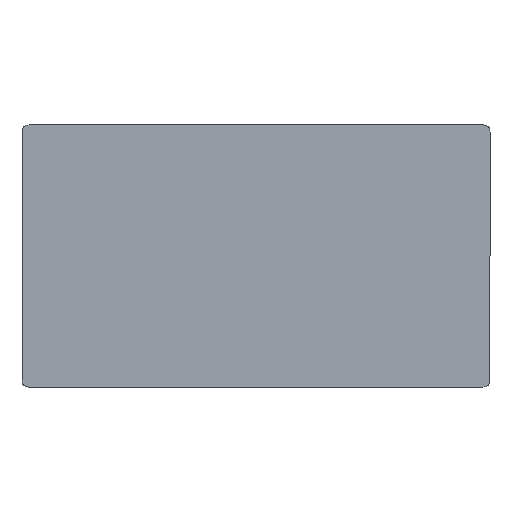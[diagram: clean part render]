
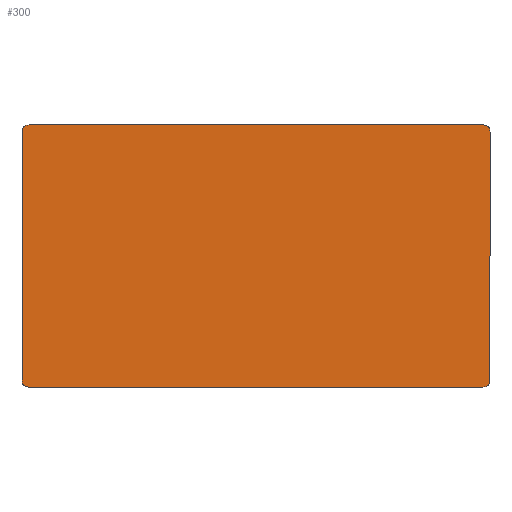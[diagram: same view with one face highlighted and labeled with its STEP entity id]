
A CAD part, front view. The second image highlights one B-rep face of the part: STEP entity #300.
In plain terms, the highlighted planar face has unit normal (0, -1, 0).
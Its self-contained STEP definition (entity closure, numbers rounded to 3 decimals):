
#7 = CARTESIAN_POINT ( 'NONE',  ( 10.985, 0., -9.1 ) ) ;
#69 = EDGE_CURVE ( 'NONE', #2564, #2676, #1303, .T. ) ;
#85 = LINE ( 'NONE', #128, #1072 ) ;
#105 = CARTESIAN_POINT ( 'NONE',  ( 11.48, 0., -8.602 ) ) ;
#128 = CARTESIAN_POINT ( 'NONE',  ( -7.115, 0., 9.1 ) ) ;
#189 = ORIENTED_EDGE ( 'NONE', *, *, #1821, .F. ) ;
#203 = CARTESIAN_POINT ( 'NONE',  ( 0., 0., 0. ) ) ;
#217 = PLANE ( 'NONE',  #2655 ) ;
#219 = VERTEX_POINT ( 'NONE', #105 ) ;
#293 = B_SPLINE_CURVE_WITH_KNOTS ( 'NONE', 3,
 ( #802, #3355, #3104, #3304, #1645, #597, #1939, #2813, #1388, #2507, #3611, #1115 ),
 .UNSPECIFIED., .F., .F.,
 ( 4, 1, 1, 1, 1, 1, 1, 1, 1, 4 ),
 ( 0.027, 0.125, 0.25, 0.375, 0.5, 0.75, 0.813, 0.875, 0.938, 0.973 ),
 .UNSPECIFIED. ) ;
#300 = ADVANCED_FACE ( 'NONE', ( #3312 ), #217, .T. ) ;
#383 = CARTESIAN_POINT ( 'NONE',  ( -20.839, 0., 9.1 ) ) ;
#482 = VERTEX_POINT ( 'NONE', #815 ) ;
#533 = DIRECTION ( 'NONE',  ( 0., 0., -1. ) ) ;
#538 = VECTOR ( 'NONE', #2252, 1000. ) ;
#542 = CARTESIAN_POINT ( 'NONE',  ( -20.509, 0., 9.1 ) ) ;
#545 = LINE ( 'NONE', #2550, #538 ) ;
#550 = CARTESIAN_POINT ( 'NONE',  ( 11.48, 0., 8.934 ) ) ;
#597 = CARTESIAN_POINT ( 'NONE',  ( 11.48, 0., -0.758 ) ) ;
#639 = CARTESIAN_POINT ( 'NONE',  ( -21.004, 0., 8.602 ) ) ;
#665 = CARTESIAN_POINT ( 'NONE',  ( -21.004, 0., 8.934 ) ) ;
#713 = ORIENTED_EDGE ( 'NONE', *, *, #2840, .T. ) ;
#758 = B_SPLINE_CURVE_WITH_KNOTS ( 'NONE', 3,
 ( #7, #2949, #1826, #2003 ),
 .UNSPECIFIED., .F., .F.,
 ( 4, 4 ),
 ( 0., 1. ),
 .UNSPECIFIED. ) ;
#779 = EDGE_CURVE ( 'NONE', #1331, #2676, #85, .T. ) ;
#802 = CARTESIAN_POINT ( 'NONE',  ( 11.48, 0., 8.602 ) ) ;
#815 = CARTESIAN_POINT ( 'NONE',  ( -20.509, 0., -9.1 ) ) ;
#914 = B_SPLINE_CURVE_WITH_KNOTS ( 'NONE', 3,
 ( #2967, #2982, #2999, #1598 ),
 .UNSPECIFIED., .F., .F.,
 ( 4, 4 ),
 ( 0., 1. ),
 .UNSPECIFIED. ) ;
#1072 = VECTOR ( 'NONE', #1775, 1000. ) ;
#1115 = CARTESIAN_POINT ( 'NONE',  ( 11.48, 0., -8.602 ) ) ;
#1121 = CARTESIAN_POINT ( 'NONE',  ( -21.004, 0., 0. ) ) ;
#1203 = CARTESIAN_POINT ( 'NONE',  ( -21.004, 0., -8.602 ) ) ;
#1303 = B_SPLINE_CURVE_WITH_KNOTS ( 'NONE', 3,
 ( #1969, #550, #1637, #2480 ),
 .UNSPECIFIED., .F., .F.,
 ( 4, 4 ),
 ( 0., 1. ),
 .UNSPECIFIED. ) ;
#1331 = VERTEX_POINT ( 'NONE', #542 ) ;
#1348 = VERTEX_POINT ( 'NONE', #2249 ) ;
#1388 = CARTESIAN_POINT ( 'NONE',  ( 11.48, 0., -6.825 ) ) ;
#1460 = EDGE_LOOP ( 'NONE', ( #2808, #3156, #2027, #189, #713, #3331, #1512, #1604 ) ) ;
#1507 = CARTESIAN_POINT ( 'NONE',  ( -21.004, 0., 8.602 ) ) ;
#1512 = ORIENTED_EDGE ( 'NONE', *, *, #3322, .T. ) ;
#1598 = CARTESIAN_POINT ( 'NONE',  ( -20.509, 0., -9.1 ) ) ;
#1604 = ORIENTED_EDGE ( 'NONE', *, *, #2951, .F. ) ;
#1637 = CARTESIAN_POINT ( 'NONE',  ( 11.315, 0., 9.1 ) ) ;
#1645 = CARTESIAN_POINT ( 'NONE',  ( 11.48, 0., 2.275 ) ) ;
#1689 = LINE ( 'NONE', #1121, #3576 ) ;
#1703 = EDGE_CURVE ( 'NONE', #1348, #482, #545, .T. ) ;
#1775 = DIRECTION ( 'NONE',  ( 1., 0., 0. ) ) ;
#1821 = EDGE_CURVE ( 'NONE', #2243, #3042, #1689, .T. ) ;
#1826 = CARTESIAN_POINT ( 'NONE',  ( 11.48, 0., -8.934 ) ) ;
#1939 = CARTESIAN_POINT ( 'NONE',  ( 11.48, 0., -3.412 ) ) ;
#1969 = CARTESIAN_POINT ( 'NONE',  ( 11.48, 0., 8.602 ) ) ;
#1973 = B_SPLINE_CURVE_WITH_KNOTS ( 'NONE', 3,
 ( #2899, #383, #665, #1507 ),
 .UNSPECIFIED., .F., .F.,
 ( 4, 4 ),
 ( 0., 1. ),
 .UNSPECIFIED. ) ;
#2003 = CARTESIAN_POINT ( 'NONE',  ( 11.48, 0., -8.602 ) ) ;
#2027 = ORIENTED_EDGE ( 'NONE', *, *, #2574, .T. ) ;
#2243 = VERTEX_POINT ( 'NONE', #1203 ) ;
#2249 = CARTESIAN_POINT ( 'NONE',  ( 10.985, 0., -9.1 ) ) ;
#2252 = DIRECTION ( 'NONE',  ( -1., 0., 0. ) ) ;
#2480 = CARTESIAN_POINT ( 'NONE',  ( 10.985, 0., 9.1 ) ) ;
#2491 = DIRECTION ( 'NONE',  ( 0., 0., 1. ) ) ;
#2507 = CARTESIAN_POINT ( 'NONE',  ( 11.48, 0., -7.796 ) ) ;
#2512 = CARTESIAN_POINT ( 'NONE',  ( 10.985, 0., 9.1 ) ) ;
#2550 = CARTESIAN_POINT ( 'NONE',  ( -7.125, 0., -9.1 ) ) ;
#2564 = VERTEX_POINT ( 'NONE', #2649 ) ;
#2574 = EDGE_CURVE ( 'NONE', #1331, #3042, #1973, .T. ) ;
#2649 = CARTESIAN_POINT ( 'NONE',  ( 11.48, 0., 8.602 ) ) ;
#2655 = AXIS2_PLACEMENT_3D ( 'NONE', #203, #3587, #533 ) ;
#2676 = VERTEX_POINT ( 'NONE', #2512 ) ;
#2808 = ORIENTED_EDGE ( 'NONE', *, *, #69, .T. ) ;
#2813 = CARTESIAN_POINT ( 'NONE',  ( 11.48, 0., -5.687 ) ) ;
#2840 = EDGE_CURVE ( 'NONE', #2243, #482, #914, .T. ) ;
#2899 = CARTESIAN_POINT ( 'NONE',  ( -20.509, 0., 9.1 ) ) ;
#2949 = CARTESIAN_POINT ( 'NONE',  ( 11.315, 0., -9.1 ) ) ;
#2951 = EDGE_CURVE ( 'NONE', #2564, #219, #293, .T. ) ;
#2967 = CARTESIAN_POINT ( 'NONE',  ( -21.004, 0., -8.602 ) ) ;
#2982 = CARTESIAN_POINT ( 'NONE',  ( -21.004, 0., -8.934 ) ) ;
#2999 = CARTESIAN_POINT ( 'NONE',  ( -20.839, 0., -9.1 ) ) ;
#3042 = VERTEX_POINT ( 'NONE', #639 ) ;
#3104 = CARTESIAN_POINT ( 'NONE',  ( 11.48, 0., 6.659 ) ) ;
#3156 = ORIENTED_EDGE ( 'NONE', *, *, #779, .F. ) ;
#3304 = CARTESIAN_POINT ( 'NONE',  ( 11.48, 0., 4.55 ) ) ;
#3312 = FACE_OUTER_BOUND ( 'NONE', #1460, .T. ) ;
#3322 = EDGE_CURVE ( 'NONE', #1348, #219, #758, .T. ) ;
#3331 = ORIENTED_EDGE ( 'NONE', *, *, #1703, .F. ) ;
#3355 = CARTESIAN_POINT ( 'NONE',  ( 11.48, 0., 8.01 ) ) ;
#3576 = VECTOR ( 'NONE', #2491, 1000. ) ;
#3587 = DIRECTION ( 'NONE',  ( 0., -1., 0. ) ) ;
#3611 = CARTESIAN_POINT ( 'NONE',  ( 11.48, 0., -8.389 ) ) ;
